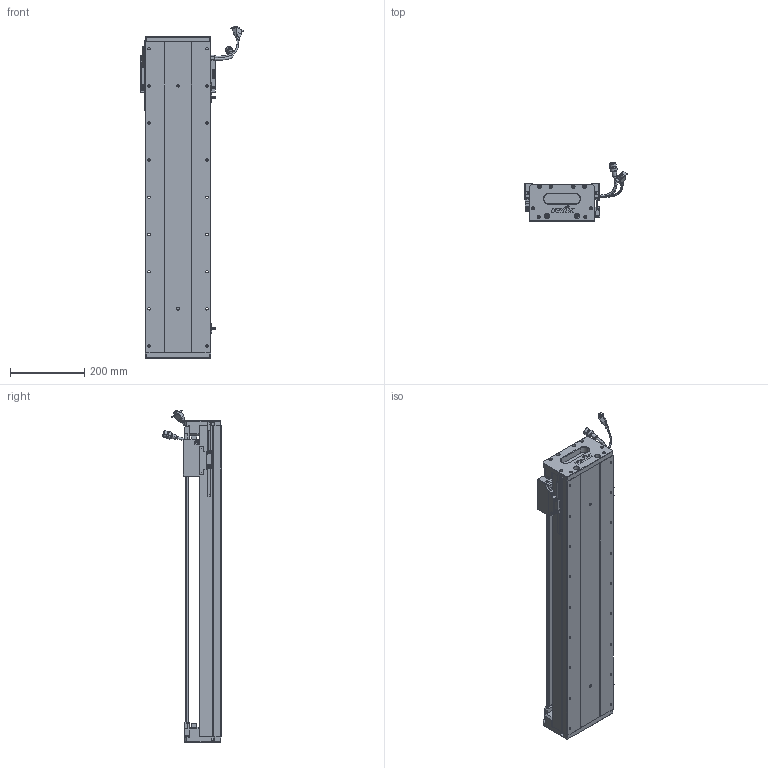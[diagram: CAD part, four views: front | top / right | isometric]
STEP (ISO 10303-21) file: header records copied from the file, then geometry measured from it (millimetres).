
FILE_DESCRIPTION (( 'STEP AP203' ), '1' );
FILE_NAME ('Z1-RY170D-1-L500-B-K.SLDASM_0650.step', '2021-05-17T08:51:48', ( '盈信电脑' ), ( '东莞市道滘镇水果街19号' ), 'SwSTEP 2.0', 'SolidWorks 2016', '' );
FILE_SCHEMA (( 'CONFIG_CONTROL_DESIGN' ));
Length unit declared in the file: millimetre
Products named in the file (36): Z-170詩湍傷裔啣; HARNESS-Part-1; SCREW-M1.6-1; SHIELDPLATE; Z1-RY170臏賑輸(21遴); 140雄赽晤鎢ん堤盄; SCREW-M1.6-2; COVER-Part-1; SEAL-Part-1; SCALE-Part-2; HARNESS; 170-Z-臏賑輸盄裔(21遴); PBU_SHEET; LABEL-Part-1; HARNESS-Part-2; SCREW-M1.6; Z1-RY170-L500詩湍145mm遵_0650; Z-RY170詩湍奻揤裔; PSLH080_PSLF2; Z1-RY170-L500耀郪菁釱_0650; HOLDER0; LABEL; SCALE-Part-1; RY170直线电机感应器672光电感应片; SEAL; SCREW-M1.7-1; 080黍杅芛假蚾釱21遴; 140蚥薯蝶輸; SCALE; 覜茼ん672; SCREW-M1.7; COVER; Z-RY170詩湍狟揤裔; SCREW-M1.6-3; Z1-RY170D-1-L500-B-K.SLDASM_0650; 榋妏寠巭燃_暯_M2_2
Assembly tree (41 placements, depth 4):
  Z1-RY170D-1-L500-B-K.SLDASM_0650
    Z1-RY170-L500耀郪菁釱_0650
    RY170直线电机感应器672光电感应片
    Z1-RY170臏賑輸(21遴)
    覜茼ん672  x3
    PSLH080_PSLF2
      SCALE
        SCALE-Part-1
        SCALE-Part-2
      HARNESS
        HARNESS-Part-1
        HARNESS-Part-2
      LABEL
        LABEL-Part-1
      COVER
        COVER-Part-1
      SEAL
        SEAL-Part-1
      榋妏寠巭燃_暯_M2_2
      SHIELDPLATE
      SCREW-M1.7
      SCREW-M1.7-1
      PBU_SHEET
      SCREW-M1.6
      SCREW-M1.6-1
      SCREW-M1.6-2
      SCREW-M1.6-3
      HOLDER0
    080黍杅芛假蚾釱21遴
    Z1-RY170-L500詩湍145mm遵_0650
    Z-170詩湍傷裔啣  x2
    Z-RY170詩湍奻揤裔  x2
    Z-RY170詩湍狟揤裔  x2
    140蚥薯蝶輸  x2
    170-Z-臏賑輸盄裔(21遴)
    140雄赽晤鎢ん堤盄
Bounding box: 275.34 x 158.11 x 893.73 mm (x, y, z)
Volume: 4971622.2 mm3; surface area: 1231263.3 mm2
Topology: 36 solids, 36 shells, 2838 faces, 7561 edges, 4767 vertices
Faces by surface type: cylinder 1260, plane 1128, cone 328, torus 69, bspline 53
Entity records: 82117 total; most frequent: CARTESIAN_POINT 20696, ORIENTED_EDGE 12038, DIRECTION 11907, EDGE_CURVE 6019, AXIS2_PLACEMENT_3D 4328, VERTEX_POINT 3885, VECTOR 3251, LINE 3251
